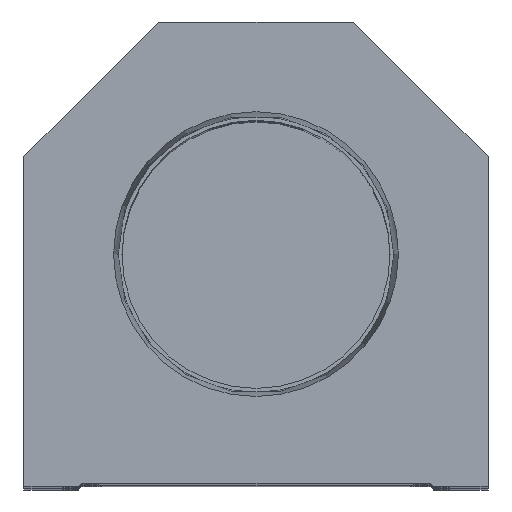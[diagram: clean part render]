
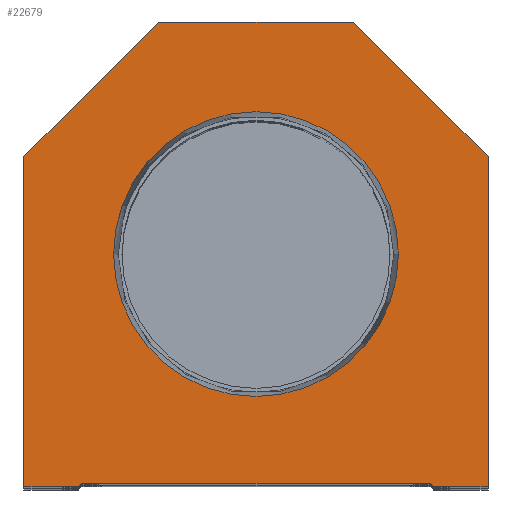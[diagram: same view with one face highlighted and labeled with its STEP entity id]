
A CAD part, top view. The second image highlights one B-rep face of the part: STEP entity #22679.
In plain terms, the highlighted planar face has unit normal (0, 0, 1).
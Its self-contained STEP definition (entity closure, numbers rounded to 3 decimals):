
#174 = DIRECTION ( 'NONE',  ( 1., 0., 0. ) ) ;
#339 = CARTESIAN_POINT ( 'NONE',  ( 28.6, 0., 0. ) ) ;
#579 = VECTOR ( 'NONE', #11702, 1000. ) ;
#657 = CARTESIAN_POINT ( 'NONE',  ( 0., 38.1, 0. ) ) ;
#731 = EDGE_CURVE ( 'NONE', #20983, #21391, #14668, .T. ) ;
#1158 = CARTESIAN_POINT ( 'NONE',  ( -29.1, 0., 0. ) ) ;
#1434 = VERTEX_POINT ( 'NONE', #5168 ) ;
#2051 = DIRECTION ( 'NONE',  ( 0., 0., 1. ) ) ;
#2251 = EDGE_LOOP ( 'NONE', ( #17563, #18010, #22749, #7427, #14713, #21280, #14491, #10742, #13578, #18711 ) ) ;
#2397 = VERTEX_POINT ( 'NONE', #22018 ) ;
#2690 = CARTESIAN_POINT ( 'NONE',  ( -14.55, 14.55, 0. ) ) ;
#3005 = LINE ( 'NONE', #22627, #579 ) ;
#3082 = CARTESIAN_POINT ( 'NONE',  ( 38.1, 0., 0. ) ) ;
#3406 = CARTESIAN_POINT ( 'NONE',  ( 38.1, 54.1, 0. ) ) ;
#3525 = CARTESIAN_POINT ( 'NONE',  ( -38.1, 54.1, 0. ) ) ;
#3636 = DIRECTION ( 'NONE',  ( 0., -1., 0. ) ) ;
#3660 = CARTESIAN_POINT ( 'NONE',  ( 16., 76.2, 0. ) ) ;
#3746 = LINE ( 'NONE', #17978, #5678 ) ;
#4205 = EDGE_CURVE ( 'NONE', #20051, #19151, #17022, .T. ) ;
#4276 = VERTEX_POINT ( 'NONE', #4689 ) ;
#4689 = CARTESIAN_POINT ( 'NONE',  ( 23.374, 38.1, 0. ) ) ;
#4853 = EDGE_CURVE ( 'NONE', #4276, #23062, #20524, .T. ) ;
#4969 = LINE ( 'NONE', #3082, #14876 ) ;
#5168 = CARTESIAN_POINT ( 'NONE',  ( -38.1, 54.1, 0. ) ) ;
#5200 = VERTEX_POINT ( 'NONE', #17726 ) ;
#5437 = DIRECTION ( 'NONE',  ( -1., 0., 0. ) ) ;
#5608 = CARTESIAN_POINT ( 'NONE',  ( 38.1, 54.1, 0. ) ) ;
#5678 = VECTOR ( 'NONE', #3636, 1000. ) ;
#5839 = LINE ( 'NONE', #5608, #7519 ) ;
#5941 = DIRECTION ( 'NONE',  ( 1., 0., 0. ) ) ;
#6068 = PLANE ( 'NONE',  #20322 ) ;
#6291 = AXIS2_PLACEMENT_3D ( 'NONE', #19729, #21388, #7188 ) ;
#6314 = VECTOR ( 'NONE', #10355, 1000. ) ;
#6805 = VERTEX_POINT ( 'NONE', #8674 ) ;
#6876 = VECTOR ( 'NONE', #21232, 1000. ) ;
#7188 = DIRECTION ( 'NONE',  ( 1., 0., 0. ) ) ;
#7262 = LINE ( 'NONE', #17481, #6876 ) ;
#7427 = ORIENTED_EDGE ( 'NONE', *, *, #14213, .T. ) ;
#7519 = VECTOR ( 'NONE', #9580, 1000. ) ;
#8220 = EDGE_CURVE ( 'NONE', #16823, #18031, #5839, .T. ) ;
#8674 = CARTESIAN_POINT ( 'NONE',  ( 28.6, 0.5, 0. ) ) ;
#9035 = EDGE_CURVE ( 'NONE', #1434, #2397, #3746, .T. ) ;
#9250 = ORIENTED_EDGE ( 'NONE', *, *, #13505, .F. ) ;
#9448 = CARTESIAN_POINT ( 'NONE',  ( -28.6, 0., 0. ) ) ;
#9580 = DIRECTION ( 'NONE',  ( -0.707, 0.707, 0. ) ) ;
#10218 = EDGE_CURVE ( 'NONE', #2397, #20051, #16500, .T. ) ;
#10355 = DIRECTION ( 'NONE',  ( -0.707, -0.707, 0. ) ) ;
#10367 = EDGE_CURVE ( 'NONE', #18031, #5200, #16116, .T. ) ;
#10742 = ORIENTED_EDGE ( 'NONE', *, *, #10367, .T. ) ;
#10743 = EDGE_CURVE ( 'NONE', #21391, #16823, #4969, .T. ) ;
#11206 = CARTESIAN_POINT ( 'NONE',  ( -23.374, 38.1, 0. ) ) ;
#11341 = FACE_OUTER_BOUND ( 'NONE', #2251, .T. ) ;
#11702 = DIRECTION ( 'NONE',  ( 0.707, -0.707, 0. ) ) ;
#11758 = CARTESIAN_POINT ( 'NONE',  ( 16., 76.2, 0. ) ) ;
#12638 = EDGE_LOOP ( 'NONE', ( #20875, #9250 ) ) ;
#12660 = DIRECTION ( 'NONE',  ( 1., 0., 0. ) ) ;
#12977 = CARTESIAN_POINT ( 'NONE',  ( 29.1, 0., 0. ) ) ;
#13249 = EDGE_CURVE ( 'NONE', #19151, #6805, #7262, .T. ) ;
#13505 = EDGE_CURVE ( 'NONE', #23062, #4276, #15126, .T. ) ;
#13578 = ORIENTED_EDGE ( 'NONE', *, *, #17666, .T. ) ;
#14213 = EDGE_CURVE ( 'NONE', #6805, #20983, #3005, .T. ) ;
#14397 = DIRECTION ( 'NONE',  ( 0., 0., 1. ) ) ;
#14491 = ORIENTED_EDGE ( 'NONE', *, *, #8220, .T. ) ;
#14668 = LINE ( 'NONE', #339, #20532 ) ;
#14713 = ORIENTED_EDGE ( 'NONE', *, *, #731, .T. ) ;
#14857 = VECTOR ( 'NONE', #5437, 1000. ) ;
#14876 = VECTOR ( 'NONE', #17879, 1000. ) ;
#15126 = CIRCLE ( 'NONE', #19599, 23.374 ) ;
#15277 = DIRECTION ( 'NONE',  ( 0.707, 0.707, 0. ) ) ;
#16116 = LINE ( 'NONE', #3660, #14857 ) ;
#16500 = LINE ( 'NONE', #9448, #18959 ) ;
#16823 = VERTEX_POINT ( 'NONE', #3406 ) ;
#17022 = LINE ( 'NONE', #2690, #17526 ) ;
#17481 = CARTESIAN_POINT ( 'NONE',  ( -28.6, 0.5, 0. ) ) ;
#17526 = VECTOR ( 'NONE', #15277, 1000. ) ;
#17563 = ORIENTED_EDGE ( 'NONE', *, *, #10218, .T. ) ;
#17666 = EDGE_CURVE ( 'NONE', #5200, #1434, #21498, .T. ) ;
#17726 = CARTESIAN_POINT ( 'NONE',  ( -16., 76.2, 0. ) ) ;
#17836 = CARTESIAN_POINT ( 'NONE',  ( 38.1, 0., 0. ) ) ;
#17879 = DIRECTION ( 'NONE',  ( 0., 1., 0. ) ) ;
#17978 = CARTESIAN_POINT ( 'NONE',  ( -38.1, 0., 0. ) ) ;
#18010 = ORIENTED_EDGE ( 'NONE', *, *, #4205, .T. ) ;
#18031 = VERTEX_POINT ( 'NONE', #11758 ) ;
#18173 = FACE_BOUND ( 'NONE', #12638, .T. ) ;
#18711 = ORIENTED_EDGE ( 'NONE', *, *, #9035, .T. ) ;
#18959 = VECTOR ( 'NONE', #5941, 1000. ) ;
#19151 = VERTEX_POINT ( 'NONE', #20636 ) ;
#19599 = AXIS2_PLACEMENT_3D ( 'NONE', #657, #14397, #12660 ) ;
#19729 = CARTESIAN_POINT ( 'NONE',  ( 0., 38.1, 0. ) ) ;
#20051 = VERTEX_POINT ( 'NONE', #1158 ) ;
#20176 = DIRECTION ( 'NONE',  ( 1., 0., 0. ) ) ;
#20322 = AXIS2_PLACEMENT_3D ( 'NONE', #22036, #2051, #174 ) ;
#20524 = CIRCLE ( 'NONE', #6291, 23.374 ) ;
#20532 = VECTOR ( 'NONE', #20176, 1000. ) ;
#20636 = CARTESIAN_POINT ( 'NONE',  ( -28.6, 0.5, 0. ) ) ;
#20875 = ORIENTED_EDGE ( 'NONE', *, *, #4853, .F. ) ;
#20983 = VERTEX_POINT ( 'NONE', #12977 ) ;
#21232 = DIRECTION ( 'NONE',  ( 1., 0., 0. ) ) ;
#21280 = ORIENTED_EDGE ( 'NONE', *, *, #10743, .T. ) ;
#21388 = DIRECTION ( 'NONE',  ( 0., 0., 1. ) ) ;
#21391 = VERTEX_POINT ( 'NONE', #17836 ) ;
#21498 = LINE ( 'NONE', #3525, #6314 ) ;
#22018 = CARTESIAN_POINT ( 'NONE',  ( -38.1, 0., 0. ) ) ;
#22036 = CARTESIAN_POINT ( 'NONE',  ( 0., 0., 0. ) ) ;
#22627 = CARTESIAN_POINT ( 'NONE',  ( 14.55, 14.55, 0. ) ) ;
#22679 = ADVANCED_FACE ( 'NONE', ( #18173, #11341 ), #6068, .T. ) ;
#22749 = ORIENTED_EDGE ( 'NONE', *, *, #13249, .T. ) ;
#23062 = VERTEX_POINT ( 'NONE', #11206 ) ;
